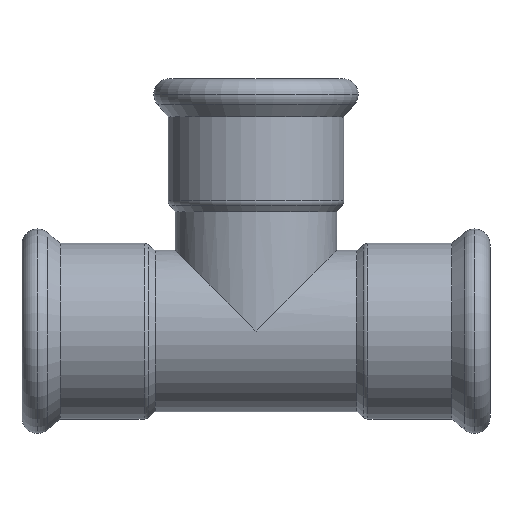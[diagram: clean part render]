
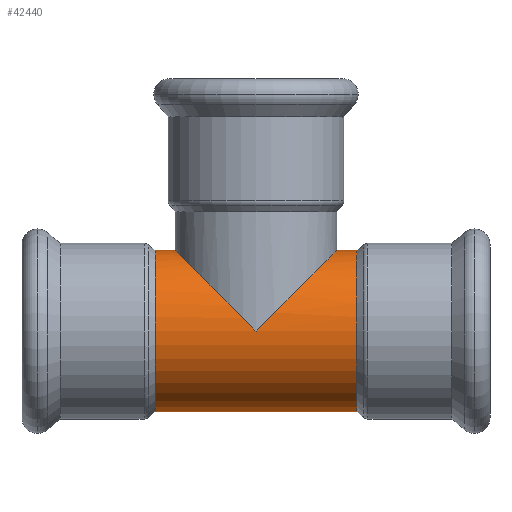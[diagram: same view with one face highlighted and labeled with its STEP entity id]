
A CAD part, top view. The second image highlights one B-rep face of the part: STEP entity #42440.
In plain terms, the highlighted cylindrical face has radius 17.594 mm (diameter 35.189 mm), a partial arc.
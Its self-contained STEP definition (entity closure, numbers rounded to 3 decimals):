
#13900=CARTESIAN_POINT('',(-306.106,185.116,
0.));
#13910=VERTEX_POINT('',#13900);
#13990=CARTESIAN_POINT('',(-270.917,185.116,0.));
#14000=VERTEX_POINT('',#13990);
#14030=CARTESIAN_POINT('',(-288.511,167.522,0.));
#14040=DIRECTION('',(-0.707,0.707,0.));
#14050=DIRECTION('',(0.707,0.707,0.));
#14060=AXIS2_PLACEMENT_3D('',#14030,#14040,#14050);
#14070=ELLIPSE('',#14060,24.882,17.594);
#14080=CARTESIAN_POINT('',(-288.511,167.522,
17.594));
#14090=VERTEX_POINT('',#14080);
#14100=EDGE_CURVE('',#14090,#14000,#14070,.T.);
#14120=CARTESIAN_POINT('',(-288.511,167.522,0.));
#14130=DIRECTION('',(0.707,0.707,0.));
#14140=DIRECTION('',(-0.707,0.707,0.));
#14150=AXIS2_PLACEMENT_3D('',#14120,#14130,#14140);
#14160=ELLIPSE('',#14150,24.882,17.594);
#14170=EDGE_CURVE('',#13910,#14090,#14160,.T.);
#14220=CARTESIAN_POINT('',(-310.511,167.522,0.));
#14230=DIRECTION('',(-1.,0.,0.));
#14240=DIRECTION('',(0.,-1.,0.));
#14250=AXIS2_PLACEMENT_3D('',#14220,#14230,#14240);
#14260=CYLINDRICAL_SURFACE('',#14250,17.594);
#14270=CARTESIAN_POINT('',(-310.511,185.116,
0.));
#14280=DIRECTION('',(-1.,0.,0.));
#14290=VECTOR('',#14280,1.);
#14300=LINE('',#14270,#14290);
#14310=CARTESIAN_POINT('',(-266.511,185.116,
0.));
#14320=VERTEX_POINT('',#14310);
#14330=EDGE_CURVE('',#14320,#14000,#14300,.T.);
#14410=CARTESIAN_POINT('',(-310.511,185.116,
0.));
#14420=VERTEX_POINT('',#14410);
#14430=EDGE_CURVE('',#13910,#14420,#14300,.T.);
#14450=CARTESIAN_POINT('',(-310.511,167.522,0.));
#14460=DIRECTION('',(-1.,0.,0.));
#14470=DIRECTION('',(0.,-1.,0.));
#14480=AXIS2_PLACEMENT_3D('',#14450,#14460,#14470);
#14490=CIRCLE('',#14480,17.594);
#14500=CARTESIAN_POINT('',(-310.511,149.928,0.));
#14510=VERTEX_POINT('',#14500);
#14540=CARTESIAN_POINT('',(-310.511,149.928,0.));
#14550=DIRECTION('',(-1.,0.,0.));
#14560=VECTOR('',#14550,1.);
#14570=LINE('',#14540,#14560);
#14580=CARTESIAN_POINT('',(-266.511,149.928,0.));
#14590=VERTEX_POINT('',#14580);
#14600=EDGE_CURVE('',#14590,#14510,#14570,.T.);
#14620=CARTESIAN_POINT('',(-266.511,167.522,0.));
#14630=DIRECTION('',(-1.,0.,0.));
#14640=DIRECTION('',(0.,-1.,0.));
#14650=AXIS2_PLACEMENT_3D('',#14620,#14630,#14640);
#14660=CIRCLE('',#14650,17.594);
#42330=ORIENTED_EDGE('',*,*,#14100,.F.);
#42340=ORIENTED_EDGE('',*,*,#14330,.T.);
#42350=EDGE_CURVE('',#14590,#14320,#14660,.T.);
#42360=ORIENTED_EDGE('',*,*,#42350,.T.);
#42370=ORIENTED_EDGE('',*,*,#14600,.F.);
#42380=EDGE_CURVE('',#14510,#14420,#14490,.T.);
#42390=ORIENTED_EDGE('',*,*,#42380,.F.);
#42400=ORIENTED_EDGE('',*,*,#14430,.T.);
#42410=ORIENTED_EDGE('',*,*,#14170,.F.);
#42420=EDGE_LOOP('',(#42410,#42400,#42390,#42370,#42360,#42340,#42330));
#42430=FACE_OUTER_BOUND('',#42420,.T.);
#42440=ADVANCED_FACE('',(#42430),#14260,.T.);
